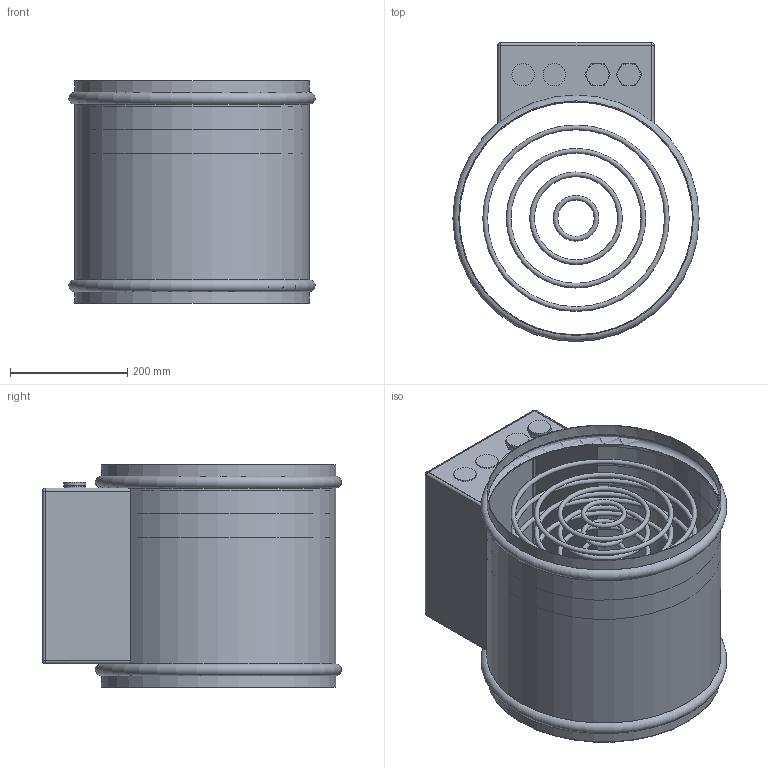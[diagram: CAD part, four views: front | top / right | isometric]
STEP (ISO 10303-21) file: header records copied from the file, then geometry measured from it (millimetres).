
FILE_DESCRIPTION(/* description */ (''),/* implementation_level */ '2;1');
FILE_NAME(/* name */ 'Z:\Output\EHR-R_9-400-08657-004.stp',/* time_stamp */ '2017-07-11T10:45:14+02:00',/* author */ ('engineering1'),/* organization */ (''),/* preprocessor_version */ 'ST-DEVELOPER v16.5',/* originating_system */ 'Autodesk Inventor 2017',/* authorisation */ '');
FILE_SCHEMA (('AUTOMOTIVE_DESIGN { 1 0 10303 214 3 1 1 }'));
Length unit declared in the file: millimetre
Products named in the file (1): EHR-2
Bounding box: 419.99 x 510 x 380 mm (x, y, z)
Volume: 1037997.8 mm3; surface area: 1484482.3 mm2
Topology: 13 solids, 16 shells, 96 faces, 205 edges, 118 vertices
Faces by surface type: plane 40, cylinder 29, torus 19, sphere 8
Full cylindrical faces by diameter (mm): 38.095 x4, 398 x4, 400 x2
Entity records: 2534 total; most frequent: CARTESIAN_POINT 464, DIRECTION 456, ORIENTED_EDGE 372, AXIS2_PLACEMENT_3D 184, EDGE_CURVE 183, EDGE_LOOP 116, VERTEX_POINT 110, ADVANCED_FACE 96
